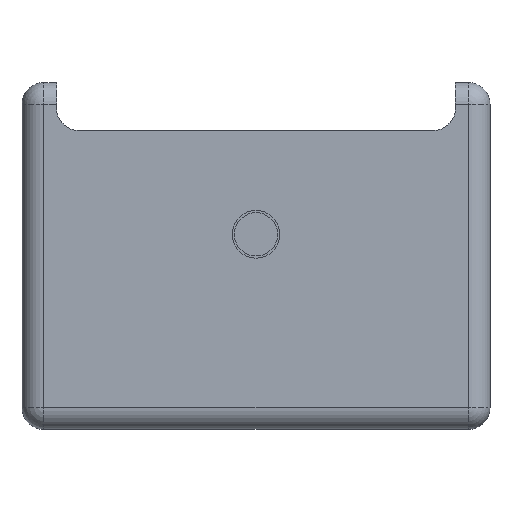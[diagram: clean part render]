
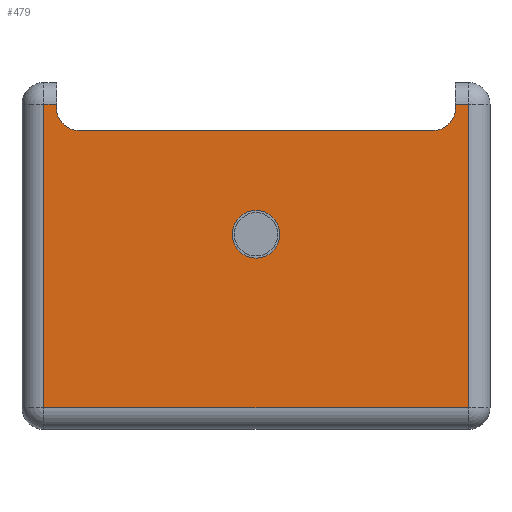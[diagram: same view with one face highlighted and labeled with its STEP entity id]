
A CAD part, front view. The second image highlights one B-rep face of the part: STEP entity #479.
In plain terms, the highlighted planar face has unit normal (0, -1, 0).
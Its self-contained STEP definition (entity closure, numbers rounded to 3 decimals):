
#14=FACE_BOUND('',#70,.T.);
#40=FACE_OUTER_BOUND('',#69,.T.);
#69=EDGE_LOOP('',(#336,#337,#338,#339,#340,#341,#342,#343,#344,#345));
#70=EDGE_LOOP('',(#346,#347));
#104=LINE('',#786,#141);
#107=LINE('',#796,#144);
#108=LINE('',#798,#145);
#109=LINE('',#800,#146);
#110=LINE('',#802,#147);
#111=LINE('',#804,#148);
#112=LINE('',#808,#149);
#113=LINE('',#811,#150);
#141=VECTOR('',#629,1.);
#144=VECTOR('',#642,1.);
#145=VECTOR('',#643,1.);
#146=VECTOR('',#644,1.);
#147=VECTOR('',#645,1.);
#148=VECTOR('',#646,1.);
#149=VECTOR('',#649,1.);
#150=VECTOR('',#652,1.);
#177=CIRCLE('',#535,2.75);
#178=CIRCLE('',#536,2.75);
#183=CIRCLE('',#545,2.5);
#184=CIRCLE('',#546,2.5);
#213=VERTEX_POINT('',#773);
#214=VERTEX_POINT('',#775);
#215=VERTEX_POINT('',#779);
#218=VERTEX_POINT('',#784);
#220=VERTEX_POINT('',#795);
#221=VERTEX_POINT('',#797);
#222=VERTEX_POINT('',#799);
#223=VERTEX_POINT('',#801);
#224=VERTEX_POINT('',#803);
#225=VERTEX_POINT('',#805);
#226=VERTEX_POINT('',#807);
#227=VERTEX_POINT('',#809);
#255=EDGE_CURVE('',#214,#213,#177,.T.);
#256=EDGE_CURVE('',#213,#214,#178,.T.);
#260=EDGE_CURVE('',#218,#215,#104,.T.);
#265=EDGE_CURVE('',#220,#218,#107,.T.);
#266=EDGE_CURVE('',#221,#220,#108,.T.);
#267=EDGE_CURVE('',#222,#221,#109,.T.);
#268=EDGE_CURVE('',#223,#222,#110,.T.);
#269=EDGE_CURVE('',#224,#223,#111,.T.);
#270=EDGE_CURVE('',#225,#224,#183,.T.);
#271=EDGE_CURVE('',#226,#225,#112,.T.);
#272=EDGE_CURVE('',#227,#226,#184,.T.);
#273=EDGE_CURVE('',#215,#227,#113,.T.);
#336=ORIENTED_EDGE('',*,*,#260,.F.);
#337=ORIENTED_EDGE('',*,*,#265,.F.);
#338=ORIENTED_EDGE('',*,*,#266,.F.);
#339=ORIENTED_EDGE('',*,*,#267,.F.);
#340=ORIENTED_EDGE('',*,*,#268,.F.);
#341=ORIENTED_EDGE('',*,*,#269,.F.);
#342=ORIENTED_EDGE('',*,*,#270,.F.);
#343=ORIENTED_EDGE('',*,*,#271,.F.);
#344=ORIENTED_EDGE('',*,*,#272,.F.);
#345=ORIENTED_EDGE('',*,*,#273,.F.);
#346=ORIENTED_EDGE('',*,*,#255,.T.);
#347=ORIENTED_EDGE('',*,*,#256,.T.);
#432=PLANE('',#544);
#479=ADVANCED_FACE('',(#40,#14),#432,.T.);
#535=AXIS2_PLACEMENT_3D('',#776,#618,#619);
#536=AXIS2_PLACEMENT_3D('',#777,#620,#621);
#544=AXIS2_PLACEMENT_3D('',#794,#640,#641);
#545=AXIS2_PLACEMENT_3D('',#806,#647,#648);
#546=AXIS2_PLACEMENT_3D('',#810,#650,#651);
#618=DIRECTION('center_axis',(0.,1.,0.));
#619=DIRECTION('ref_axis',(0.,0.,1.));
#620=DIRECTION('center_axis',(0.,1.,0.));
#621=DIRECTION('ref_axis',(0.,0.,1.));
#629=DIRECTION('',(1.,0.,0.));
#640=DIRECTION('center_axis',(0.,-1.,0.));
#641=DIRECTION('ref_axis',(0.,0.,1.));
#642=DIRECTION('',(0.,0.,1.));
#643=DIRECTION('',(-1.,0.,0.));
#644=DIRECTION('',(0.,0.,-1.));
#645=DIRECTION('',(1.,0.,0.));
#646=DIRECTION('',(0.,0.,1.));
#647=DIRECTION('center_axis',(0.,-1.,0.));
#648=DIRECTION('ref_axis',(0.707,0.,-0.707));
#649=DIRECTION('',(1.,0.,0.));
#650=DIRECTION('center_axis',(0.,-1.,0.));
#651=DIRECTION('ref_axis',(-0.707,0.,-0.707));
#652=DIRECTION('',(0.,0.,-1.));
#773=CARTESIAN_POINT('',(-27.,-3.,17.25));
#775=CARTESIAN_POINT('',(-27.,-3.,22.75));
#776=CARTESIAN_POINT('Origin',(-27.,-3.,20.));
#777=CARTESIAN_POINT('Origin',(-27.,-3.,20.));
#779=CARTESIAN_POINT('',(-50.,-3.,35.));
#784=CARTESIAN_POINT('',(-51.5,-3.,35.));
#786=CARTESIAN_POINT('',(-29.863,-3.,35.));
#794=CARTESIAN_POINT('Origin',(-27.,-3.,31.082));
#795=CARTESIAN_POINT('',(-51.5,-3.,0.));
#796=CARTESIAN_POINT('',(-51.5,-3.,15.541));
#797=CARTESIAN_POINT('',(-2.5,-3.,0.));
#798=CARTESIAN_POINT('',(-14.75,-3.,0.));
#799=CARTESIAN_POINT('',(-2.5,-3.,35.));
#800=CARTESIAN_POINT('',(-2.5,-3.,48.041));
#801=CARTESIAN_POINT('',(-4.,-3.,35.));
#802=CARTESIAN_POINT('',(-29.863,-3.,35.));
#803=CARTESIAN_POINT('',(-4.,-3.,34.5));
#804=CARTESIAN_POINT('',(-4.,-3.,67.));
#805=CARTESIAN_POINT('',(-6.5,-3.,32.));
#806=CARTESIAN_POINT('Origin',(-6.5,-3.,34.5));
#807=CARTESIAN_POINT('',(-47.5,-3.,32.));
#808=CARTESIAN_POINT('',(-50.,-3.,32.));
#809=CARTESIAN_POINT('',(-50.,-3.,34.5));
#810=CARTESIAN_POINT('Origin',(-47.5,-3.,34.5));
#811=CARTESIAN_POINT('',(-50.,-3.,67.));
